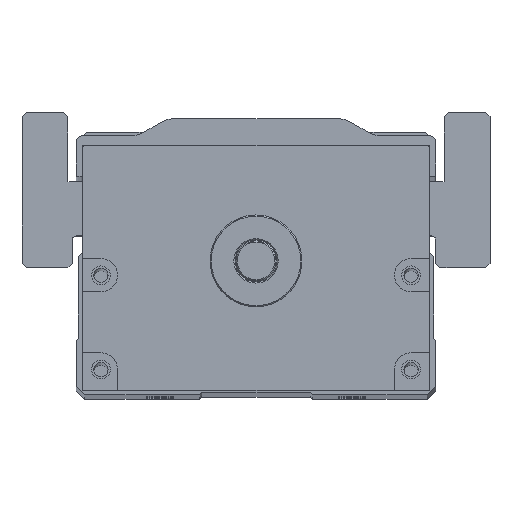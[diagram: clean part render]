
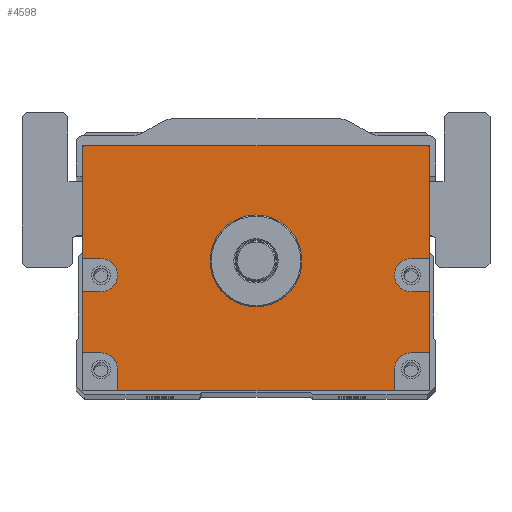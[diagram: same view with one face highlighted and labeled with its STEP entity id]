
A CAD part, top view. The second image highlights one B-rep face of the part: STEP entity #4598.
In plain terms, the highlighted planar face has unit normal (0, 0, 1).
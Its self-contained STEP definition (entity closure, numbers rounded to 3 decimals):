
#3913=FACE_BOUND('',#6319,.T.);
#3914=FACE_BOUND('',#6320,.T.);
#4598=ADVANCED_FACE('',(#3913,#3914),#5102,.T.);
#5102=PLANE('',#15680);
#6319=EDGE_LOOP('',(#10366,#10367,#10368,#10369,#10370,#10371,#10372,#10373,
#10374,#10375,#10376,#10377,#10378,#10379,#10380,#10381,#10382,#10383));
#6320=EDGE_LOOP('',(#10384));
#7238=LINE('',#22847,#8050);
#7240=LINE('',#22855,#8052);
#7241=LINE('',#22858,#8053);
#7242=LINE('',#22860,#8054);
#7243=LINE('',#22864,#8055);
#7244=LINE('',#22866,#8056);
#7245=LINE('',#22867,#8057);
#7246=LINE('',#22869,#8058);
#7247=LINE('',#22873,#8059);
#7248=LINE('',#22875,#8060);
#7249=LINE('',#22877,#8061);
#7250=LINE('',#22881,#8062);
#7251=LINE('',#22883,#8063);
#7252=LINE('',#22885,#8064);
#8050=VECTOR('',#18074,1.);
#8052=VECTOR('',#18082,1.);
#8053=VECTOR('',#18083,1.);
#8054=VECTOR('',#18084,1.);
#8055=VECTOR('',#18087,1.);
#8056=VECTOR('',#18088,1.);
#8057=VECTOR('',#18089,1.);
#8058=VECTOR('',#18090,1.);
#8059=VECTOR('',#18093,1.);
#8060=VECTOR('',#18094,1.);
#8061=VECTOR('',#18095,1.);
#8062=VECTOR('',#18098,1.);
#8063=VECTOR('',#18099,1.);
#8064=VECTOR('',#18100,1.);
#10366=ORIENTED_EDGE('',*,*,#13830,.F.);
#10367=ORIENTED_EDGE('',*,*,#13831,.T.);
#10368=ORIENTED_EDGE('',*,*,#13832,.F.);
#10369=ORIENTED_EDGE('',*,*,#13833,.F.);
#10370=ORIENTED_EDGE('',*,*,#13834,.F.);
#10371=ORIENTED_EDGE('',*,*,#13835,.T.);
#10372=ORIENTED_EDGE('',*,*,#13826,.T.);
#10373=ORIENTED_EDGE('',*,*,#13836,.T.);
#10374=ORIENTED_EDGE('',*,*,#13837,.F.);
#10375=ORIENTED_EDGE('',*,*,#13838,.F.);
#10376=ORIENTED_EDGE('',*,*,#13839,.F.);
#10377=ORIENTED_EDGE('',*,*,#13840,.T.);
#10378=ORIENTED_EDGE('',*,*,#13841,.F.);
#10379=ORIENTED_EDGE('',*,*,#13842,.F.);
#10380=ORIENTED_EDGE('',*,*,#13843,.F.);
#10381=ORIENTED_EDGE('',*,*,#13844,.T.);
#10382=ORIENTED_EDGE('',*,*,#13845,.F.);
#10383=ORIENTED_EDGE('',*,*,#13846,.F.);
#10384=ORIENTED_EDGE('',*,*,#13812,.T.);
#12348=VERTEX_POINT('',#22818);
#12361=VERTEX_POINT('',#22846);
#12362=VERTEX_POINT('',#22848);
#12365=VERTEX_POINT('',#22856);
#12366=VERTEX_POINT('',#22857);
#12367=VERTEX_POINT('',#22859);
#12368=VERTEX_POINT('',#22861);
#12369=VERTEX_POINT('',#22863);
#12370=VERTEX_POINT('',#22865);
#12371=VERTEX_POINT('',#22868);
#12372=VERTEX_POINT('',#22870);
#12373=VERTEX_POINT('',#22872);
#12374=VERTEX_POINT('',#22874);
#12375=VERTEX_POINT('',#22876);
#12376=VERTEX_POINT('',#22878);
#12377=VERTEX_POINT('',#22880);
#12378=VERTEX_POINT('',#22882);
#12379=VERTEX_POINT('',#22884);
#12380=VERTEX_POINT('',#22886);
#13812=EDGE_CURVE('',#12348,#12348,#14753,.T.);
#13826=EDGE_CURVE('',#12362,#12361,#7238,.T.);
#13830=EDGE_CURVE('',#12365,#12366,#7240,.T.);
#13831=EDGE_CURVE('',#12365,#12367,#7241,.T.);
#13832=EDGE_CURVE('',#12368,#12367,#7242,.T.);
#13833=EDGE_CURVE('',#12369,#12368,#14764,.T.);
#13834=EDGE_CURVE('',#12370,#12369,#7243,.T.);
#13835=EDGE_CURVE('',#12370,#12362,#7244,.T.);
#13836=EDGE_CURVE('',#12361,#12371,#7245,.T.);
#13837=EDGE_CURVE('',#12372,#12371,#7246,.T.);
#13838=EDGE_CURVE('',#12373,#12372,#14765,.T.);
#13839=EDGE_CURVE('',#12374,#12373,#7247,.T.);
#13840=EDGE_CURVE('',#12374,#12375,#7248,.T.);
#13841=EDGE_CURVE('',#12376,#12375,#7249,.T.);
#13842=EDGE_CURVE('',#12377,#12376,#14766,.T.);
#13843=EDGE_CURVE('',#12378,#12377,#7250,.T.);
#13844=EDGE_CURVE('',#12378,#12379,#7251,.T.);
#13845=EDGE_CURVE('',#12380,#12379,#7252,.T.);
#13846=EDGE_CURVE('',#12366,#12380,#14767,.T.);
#14753=CIRCLE('',#15662,11.);
#14764=CIRCLE('',#15676,4.);
#14765=CIRCLE('',#15677,4.);
#14766=CIRCLE('',#15678,4.);
#14767=CIRCLE('',#15679,4.);
#15662=AXIS2_PLACEMENT_3D('',#22817,#18047,#18048);
#15676=AXIS2_PLACEMENT_3D('',#22862,#18085,#18086);
#15677=AXIS2_PLACEMENT_3D('',#22871,#18091,#18092);
#15678=AXIS2_PLACEMENT_3D('',#22879,#18096,#18097);
#15679=AXIS2_PLACEMENT_3D('',#22887,#18101,#18102);
#15680=AXIS2_PLACEMENT_3D('',#22888,#18103,#18104);
#18047=DIRECTION('',(0.,0.,-1.));
#18048=DIRECTION('',(1.,0.,0.));
#18074=DIRECTION('',(-1.,0.,0.));
#18082=DIRECTION('',(-1.,0.,0.));
#18083=DIRECTION('',(0.,1.,0.));
#18084=DIRECTION('',(1.,0.,0.));
#18085=DIRECTION('',(0.,0.,1.));
#18086=DIRECTION('',(1.,0.,0.));
#18087=DIRECTION('',(-1.,0.,0.));
#18088=DIRECTION('',(0.,1.,0.));
#18089=DIRECTION('',(0.,-1.,0.));
#18090=DIRECTION('',(-1.,0.,0.));
#18091=DIRECTION('',(0.,0.,1.));
#18092=DIRECTION('',(1.,0.,0.));
#18093=DIRECTION('',(1.,0.,0.));
#18094=DIRECTION('',(0.,-1.,0.));
#18095=DIRECTION('',(-1.,0.,0.));
#18096=DIRECTION('',(0.,0.,1.));
#18097=DIRECTION('',(1.,0.,0.));
#18098=DIRECTION('',(0.,1.,0.));
#18099=DIRECTION('',(1.,0.,0.));
#18100=DIRECTION('',(0.,-1.,0.));
#18101=DIRECTION('',(0.,0.,1.));
#18102=DIRECTION('',(1.,0.,0.));
#18103=DIRECTION('',(0.,0.,1.));
#18104=DIRECTION('',(1.,0.,0.));
#22817=CARTESIAN_POINT('',(300.,0.,482.5));
#22818=CARTESIAN_POINT('',(311.,0.,482.5));
#22846=CARTESIAN_POINT('',(258.5,27.5,482.5));
#22847=CARTESIAN_POINT('',(341.5,27.5,482.5));
#22848=CARTESIAN_POINT('',(341.5,27.5,482.5));
#22855=CARTESIAN_POINT('',(341.5,-22.,482.5));
#22856=CARTESIAN_POINT('',(341.5,-22.,482.5));
#22857=CARTESIAN_POINT('',(337.115,-22.,482.5));
#22858=CARTESIAN_POINT('',(341.5,-31.,482.5));
#22859=CARTESIAN_POINT('',(341.5,-7.431,482.5));
#22860=CARTESIAN_POINT('',(341.5,-7.431,482.5));
#22861=CARTESIAN_POINT('',(337.115,-7.431,482.5));
#22862=CARTESIAN_POINT('',(337.115,-3.431,482.5));
#22863=CARTESIAN_POINT('',(337.115,0.569,482.5));
#22864=CARTESIAN_POINT('',(341.5,0.569,482.5));
#22865=CARTESIAN_POINT('',(341.5,0.569,482.5));
#22866=CARTESIAN_POINT('',(341.5,-31.,482.5));
#22867=CARTESIAN_POINT('',(258.5,27.5,482.5));
#22868=CARTESIAN_POINT('',(258.5,0.569,482.5));
#22869=CARTESIAN_POINT('',(341.5,0.569,482.5));
#22870=CARTESIAN_POINT('',(262.885,0.569,482.5));
#22871=CARTESIAN_POINT('',(262.885,-3.431,482.5));
#22872=CARTESIAN_POINT('',(262.885,-7.431,482.5));
#22873=CARTESIAN_POINT('',(341.5,-7.431,482.5));
#22874=CARTESIAN_POINT('',(258.5,-7.431,482.5));
#22875=CARTESIAN_POINT('',(258.5,27.5,482.5));
#22876=CARTESIAN_POINT('',(258.5,-22.,482.5));
#22877=CARTESIAN_POINT('',(341.5,-22.,482.5));
#22878=CARTESIAN_POINT('',(262.885,-22.,482.5));
#22879=CARTESIAN_POINT('',(262.885,-26.,482.5));
#22880=CARTESIAN_POINT('',(266.885,-26.,482.5));
#22881=CARTESIAN_POINT('',(266.885,-31.,482.5));
#22882=CARTESIAN_POINT('',(266.885,-31.,482.5));
#22883=CARTESIAN_POINT('',(258.5,-31.,482.5));
#22884=CARTESIAN_POINT('',(333.115,-31.,482.5));
#22885=CARTESIAN_POINT('',(333.115,-31.,482.5));
#22886=CARTESIAN_POINT('',(333.115,-26.,482.5));
#22887=CARTESIAN_POINT('',(337.115,-26.,482.5));
#22888=CARTESIAN_POINT('',(341.5,-31.,482.5));
